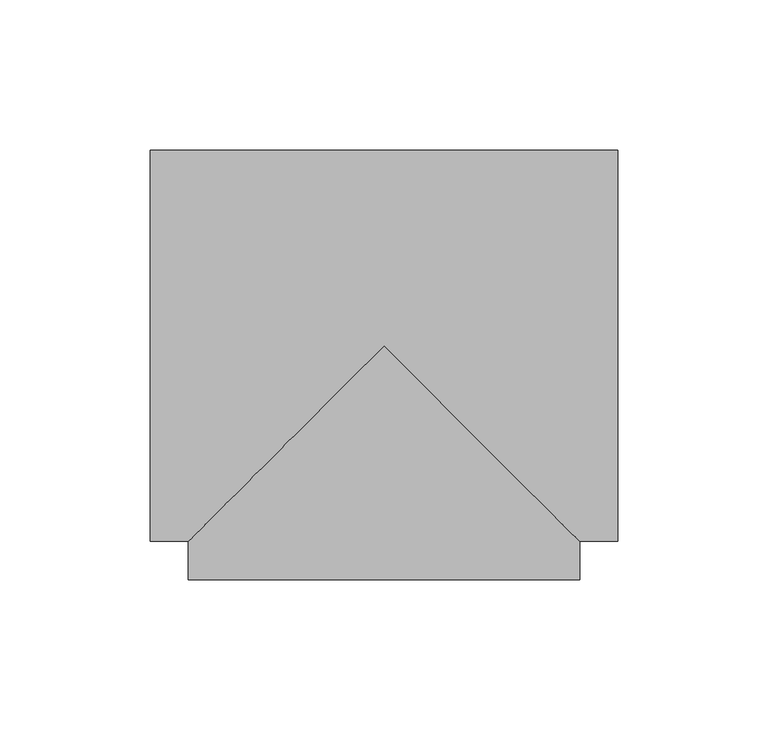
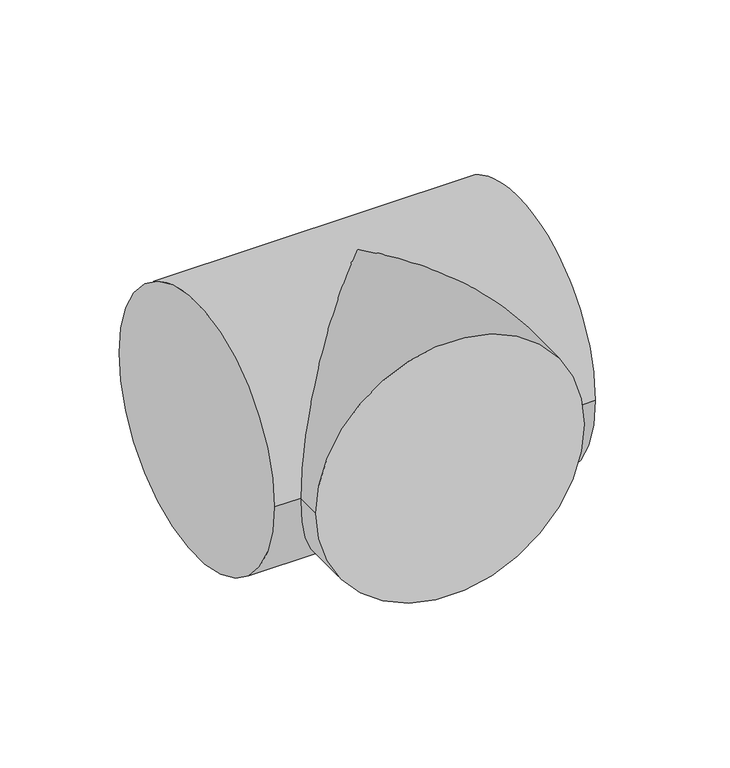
"""IFC4 building model written with IfcOpenShell, lengths in millimetres: pipe fitting geometry, M_Te - Genérica : Estándar."""

from ifc_helpers import new_model, si_unit, frame, origin, place, context, project, spatial, circle_curve, ellipse_curve, source, transform, mapped, element, save
from ifc_brep_helpers import plane_surface, cylinder_surface, advanced_brep


def pipe_fitting_93935a4b(model_context):
    return source(origin(), model_context, "Body", "AdvancedBrep", [
        advanced_brep(
        [(-77.7875, -65.0875, 0.0), (-77.7875, 65.0875, 0.0), (77.7875, -65.0875, 0.0), (77.7875, 65.0875, 0.0), (-65.0809271, -65.0875, 0.0), (0.0, 0.0, 65.0875), (65.0940735, -65.0875, 0.0), (0.0, 0.0, -65.0875), (-65.0796439, -77.7940728, 0.0), (65.0953554, -77.7809264, 0.0)],
        [
            (0, 1, circle_curve(frame((-77.7875, 0.0, 0.0), z_axis=(-1.0, 0.0, 0.0), x_axis=(0.0, 1.0, 0.0)), 65.0875)),
            (1, 0, circle_curve(frame((-77.7875, 0.0, 0.0), z_axis=(-1.0, 0.0, 0.0), x_axis=(0.0, 1.0, 0.0)), 65.0875)),
            (2, 3, circle_curve(frame((77.7875, 0.0, 0.0), z_axis=(1.0, 0.0, 0.0), x_axis=(0.0, 1.0, 0.0)), 65.0875)),
            (3, 2, circle_curve(frame((77.7875, 0.0, 0.0), z_axis=(1.0, 0.0, 0.0), x_axis=(0.0, 1.0, 0.0)), 65.0875)),
            (0, 4),
            (4, 5, ellipse_curve(frame((0.0, 0.0, 0.0), z_axis=(-0.7071424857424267, 0.707071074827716, 0.0), x_axis=(-0.7070710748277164, -0.7071424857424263, 0.0)), 92.0429776, 65.0875)),
            (5, 6, ellipse_curve(frame((0.0, 0.0, 0.0), z_axis=(0.707071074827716, 0.7071424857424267, 0.0), x_axis=(-0.7071424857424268, 0.7070710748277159, 0.0)), 92.0522736, 65.0875)),
            (6, 2),
            (3, 1),
            (6, 7, ellipse_curve(frame((0.0, 0.0, 0.0), z_axis=(0.707071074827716, 0.7071424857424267, 0.0), x_axis=(-0.7071424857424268, 0.7070710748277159, 0.0)), 92.0522736, 65.0875)),
            (7, 4, ellipse_curve(frame((0.0, 0.0, 0.0), z_axis=(-0.7071424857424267, 0.707071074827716, 0.0), x_axis=(-0.7070710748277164, -0.7071424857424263, 0.0)), 92.0429776, 65.0875)),
            (8, 9, circle_curve(frame((0.0078558, -77.7874996, 0.0), z_axis=(0.00010099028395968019, -0.9999999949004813, 0.0), x_axis=(0.9999999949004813, 0.00010099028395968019, 0.0)), 65.0875)),
            (9, 8, circle_curve(frame((0.0078558, -77.7874996, 0.0), z_axis=(0.00010099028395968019, -0.9999999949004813, 0.0), x_axis=(0.9999999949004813, 0.00010099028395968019, 0.0)), 65.0875)),
            (9, 6),
            (4, 8),
        ],
        [
            plane_surface(frame((-77.7875, 0.0, 0.0), z_axis=(-1.0, 0.0, 0.0), x_axis=(0.0, 0.0, 1.0))),
            plane_surface(frame((77.7875, 0.0, 0.0), z_axis=(1.0, 0.0, 0.0), x_axis=(0.0, 0.0, 1.0))),
            cylinder_surface(frame((-77.7875, 0.0, 0.0), z_axis=(-1.0, 0.0, 0.0), x_axis=(0.0, 1.0, 0.0)), 65.0875),
            plane_surface(frame((0.0078558, -77.7874996, 0.0), z_axis=(0.0001009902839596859, -0.9999999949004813, 0.0), x_axis=(0.0, 0.0, 1.0))),
            cylinder_surface(frame((0.0, 0.0, 0.0), z_axis=(-0.00010099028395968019, 0.9999999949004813, 0.0), x_axis=(0.9999999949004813, 0.00010099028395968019, 0.0)), 65.0875),
        ],
        [
            (0, [[1, 2]]),
            (1, [[3, 4]]),
            (2, [[-1, 5, 6, 7, 8, -4, 9]]),
            (2, [[-2, -9, -3, -8, 10, 11, -5]]),
            (3, [[12, 13]]),
            (4, [[-13, 14, -7, -6, 15]]),
            (4, [[-12, -15, -11, -10, -14]]),
        ],
    ),
    ])


if __name__ == "__main__":
    model = new_model("IFC4")
    model_context = context("Model", 3, world=origin())
    ifc_project = project(units=[si_unit("LENGTHUNIT", "METRE", prefix="MILLI")], contexts=[model_context])
    site = spatial("IfcSite", under=ifc_project)
    building = spatial("IfcBuilding", under=site)
    placement = place(None, origin())
    pipe_fitting_shape = pipe_fitting_93935a4b(model_context)
    element("IfcPipeFitting", 1, ObjectType="M_Te - Genérica : Estándar", at=placement, inside=building, context=model_context, shape_type="MappedRepresentation", body=[
        mapped(pipe_fitting_shape, transform((0.0, 0.0, 0.0), x_axis=(1.0, 0.0, 0.0), y_axis=(0.0, 1.0, 0.0), z_axis=(0.0, 0.0, 1.0))),
    ])
    save(model, "model.ifc")
